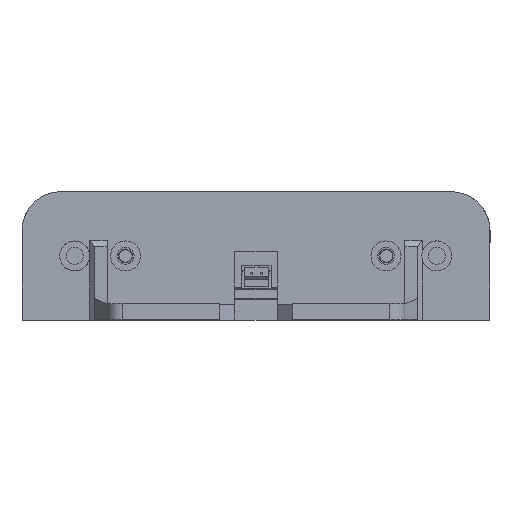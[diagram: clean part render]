
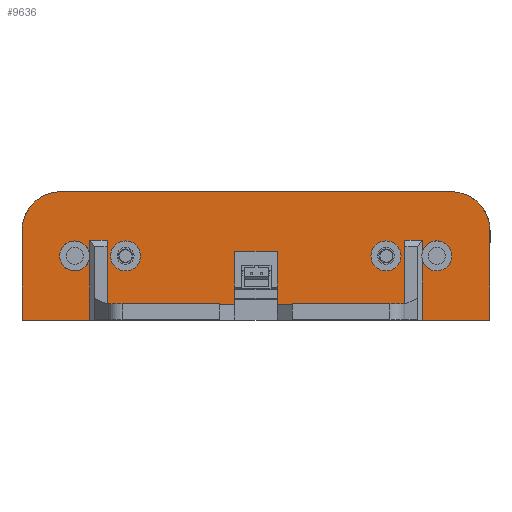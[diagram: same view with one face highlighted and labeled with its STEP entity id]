
A CAD part, top view. The second image highlights one B-rep face of the part: STEP entity #9636.
In plain terms, the highlighted planar face has unit normal (0, 0, 1).
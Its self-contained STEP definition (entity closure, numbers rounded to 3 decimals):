
#703=FACE_BOUND('',#4364,.T.);
#704=FACE_BOUND('',#4365,.T.);
#954=CIRCLE('',#10296,3.);
#955=CIRCLE('',#10297,7.79);
#956=CIRCLE('',#10298,7.79);
#957=CIRCLE('',#10299,3.);
#958=CIRCLE('',#10300,3.);
#959=CIRCLE('',#10301,3.);
#960=CIRCLE('',#10302,3.);
#1211=LINE('',#16126,#2320);
#1224=LINE('',#16153,#2333);
#1229=LINE('',#16173,#2338);
#1242=LINE('',#16208,#2351);
#1243=LINE('',#16212,#2352);
#1247=LINE('',#16222,#2356);
#1251=LINE('',#16230,#2360);
#1252=LINE('',#16233,#2361);
#1253=LINE('',#16236,#2362);
#1254=LINE('',#16238,#2363);
#1255=LINE('',#16242,#2364);
#1256=LINE('',#16246,#2365);
#1257=LINE('',#16248,#2366);
#1258=LINE('',#16250,#2367);
#1259=LINE('',#16256,#2368);
#1260=LINE('',#16258,#2369);
#1261=LINE('',#16259,#2370);
#1262=LINE('',#16260,#2371);
#2320=VECTOR('',#11278,10.);
#2333=VECTOR('',#11295,10.);
#2338=VECTOR('',#11312,10.);
#2351=VECTOR('',#11337,10.);
#2352=VECTOR('',#11340,10.);
#2356=VECTOR('',#11348,10.);
#2360=VECTOR('',#11352,10.);
#2361=VECTOR('',#11357,10.);
#2362=VECTOR('',#11360,10.);
#2363=VECTOR('',#11361,10.);
#2364=VECTOR('',#11364,10.);
#2365=VECTOR('',#11367,10.);
#2366=VECTOR('',#11368,10.);
#2367=VECTOR('',#11369,10.);
#2368=VECTOR('',#11374,10.);
#2369=VECTOR('',#11375,10.);
#2370=VECTOR('',#11376,10.);
#2371=VECTOR('',#11377,10.);
#3354=PLANE('',#10295);
#3819=FACE_OUTER_BOUND('',#4363,.T.);
#4363=EDGE_LOOP('',(#7739,#7740,#7741,#7742,#7743,#7744,#7745,#7746,#7747,
#7748,#7749,#7750,#7751,#7752,#7753,#7754,#7755,#7756,#7757,#7758,#7759,
#7760,#7761));
#4364=EDGE_LOOP('',(#7762));
#4365=EDGE_LOOP('',(#7763));
#5092=VERTEX_POINT('',#16121);
#5093=VERTEX_POINT('',#16125);
#5105=VERTEX_POINT('',#16151);
#5112=VERTEX_POINT('',#16166);
#5114=VERTEX_POINT('',#16172);
#5130=VERTEX_POINT('',#16206);
#5131=VERTEX_POINT('',#16210);
#5132=VERTEX_POINT('',#16211);
#5135=VERTEX_POINT('',#16219);
#5139=VERTEX_POINT('',#16227);
#5140=VERTEX_POINT('',#16229);
#5141=VERTEX_POINT('',#16235);
#5142=VERTEX_POINT('',#16237);
#5143=VERTEX_POINT('',#16239);
#5144=VERTEX_POINT('',#16241);
#5145=VERTEX_POINT('',#16243);
#5146=VERTEX_POINT('',#16245);
#5147=VERTEX_POINT('',#16247);
#5148=VERTEX_POINT('',#16249);
#5149=VERTEX_POINT('',#16251);
#5150=VERTEX_POINT('',#16253);
#5151=VERTEX_POINT('',#16255);
#5152=VERTEX_POINT('',#16257);
#5153=VERTEX_POINT('',#16261);
#5154=VERTEX_POINT('',#16263);
#6076=EDGE_CURVE('',#5093,#5092,#1211,.T.);
#6090=EDGE_CURVE('',#5105,#5092,#1224,.T.);
#6099=EDGE_CURVE('',#5112,#5114,#1229,.T.);
#6117=EDGE_CURVE('',#5112,#5130,#1242,.T.);
#6118=EDGE_CURVE('',#5131,#5132,#1243,.T.);
#6123=EDGE_CURVE('',#5135,#5131,#1247,.T.);
#6127=EDGE_CURVE('',#5139,#5140,#1251,.T.);
#6129=EDGE_CURVE('',#5105,#5132,#1252,.T.);
#6130=EDGE_CURVE('',#5135,#5140,#954,.T.);
#6131=EDGE_CURVE('',#5139,#5141,#1253,.T.);
#6132=EDGE_CURVE('',#5141,#5142,#1254,.T.);
#6133=EDGE_CURVE('',#5143,#5142,#955,.T.);
#6134=EDGE_CURVE('',#5144,#5143,#1255,.T.);
#6135=EDGE_CURVE('',#5145,#5144,#956,.T.);
#6136=EDGE_CURVE('',#5146,#5145,#1256,.T.);
#6137=EDGE_CURVE('',#5146,#5147,#1257,.T.);
#6138=EDGE_CURVE('',#5148,#5147,#1258,.T.);
#6139=EDGE_CURVE('',#5148,#5149,#957,.T.);
#6140=EDGE_CURVE('',#5149,#5150,#958,.T.);
#6141=EDGE_CURVE('',#5151,#5150,#1259,.T.);
#6142=EDGE_CURVE('',#5152,#5151,#1260,.T.);
#6143=EDGE_CURVE('',#5152,#5114,#1261,.T.);
#6144=EDGE_CURVE('',#5130,#5093,#1262,.T.);
#6145=EDGE_CURVE('',#5153,#5153,#959,.T.);
#6146=EDGE_CURVE('',#5154,#5154,#960,.T.);
#7739=ORIENTED_EDGE('',*,*,#6129,.T.);
#7740=ORIENTED_EDGE('',*,*,#6118,.F.);
#7741=ORIENTED_EDGE('',*,*,#6123,.F.);
#7742=ORIENTED_EDGE('',*,*,#6130,.T.);
#7743=ORIENTED_EDGE('',*,*,#6127,.F.);
#7744=ORIENTED_EDGE('',*,*,#6131,.T.);
#7745=ORIENTED_EDGE('',*,*,#6132,.T.);
#7746=ORIENTED_EDGE('',*,*,#6133,.F.);
#7747=ORIENTED_EDGE('',*,*,#6134,.F.);
#7748=ORIENTED_EDGE('',*,*,#6135,.F.);
#7749=ORIENTED_EDGE('',*,*,#6136,.F.);
#7750=ORIENTED_EDGE('',*,*,#6137,.T.);
#7751=ORIENTED_EDGE('',*,*,#6138,.F.);
#7752=ORIENTED_EDGE('',*,*,#6139,.T.);
#7753=ORIENTED_EDGE('',*,*,#6140,.T.);
#7754=ORIENTED_EDGE('',*,*,#6141,.F.);
#7755=ORIENTED_EDGE('',*,*,#6142,.F.);
#7756=ORIENTED_EDGE('',*,*,#6143,.T.);
#7757=ORIENTED_EDGE('',*,*,#6099,.F.);
#7758=ORIENTED_EDGE('',*,*,#6117,.T.);
#7759=ORIENTED_EDGE('',*,*,#6144,.T.);
#7760=ORIENTED_EDGE('',*,*,#6076,.T.);
#7761=ORIENTED_EDGE('',*,*,#6090,.F.);
#7762=ORIENTED_EDGE('',*,*,#6145,.T.);
#7763=ORIENTED_EDGE('',*,*,#6146,.T.);
#9636=ADVANCED_FACE('',(#3819,#703,#704),#3354,.T.);
#10295=AXIS2_PLACEMENT_3D('',#16232,#11355,#11356);
#10296=AXIS2_PLACEMENT_3D('',#16234,#11358,#11359);
#10297=AXIS2_PLACEMENT_3D('',#16240,#11362,#11363);
#10298=AXIS2_PLACEMENT_3D('',#16244,#11365,#11366);
#10299=AXIS2_PLACEMENT_3D('',#16252,#11370,#11371);
#10300=AXIS2_PLACEMENT_3D('',#16254,#11372,#11373);
#10301=AXIS2_PLACEMENT_3D('',#16262,#11378,#11379);
#10302=AXIS2_PLACEMENT_3D('',#16264,#11380,#11381);
#11278=DIRECTION('',(0.,-1.,0.));
#11295=DIRECTION('',(-1.,0.,0.));
#11312=DIRECTION('',(-1.,0.,0.));
#11337=DIRECTION('',(0.,1.,0.));
#11340=DIRECTION('',(-1.,0.,0.));
#11348=DIRECTION('',(0.,1.,0.));
#11352=DIRECTION('',(0.,1.,0.));
#11355=DIRECTION('center_axis',(0.,0.,1.));
#11356=DIRECTION('ref_axis',(1.,0.,0.));
#11357=DIRECTION('',(0.,1.,0.));
#11358=DIRECTION('center_axis',(0.,0.,-1.));
#11359=DIRECTION('ref_axis',(1.,0.,0.));
#11360=DIRECTION('',(1.,0.,0.));
#11361=DIRECTION('',(0.,1.,0.));
#11362=DIRECTION('center_axis',(0.,0.,-1.));
#11363=DIRECTION('ref_axis',(0.707,0.707,0.));
#11364=DIRECTION('',(1.,0.,0.));
#11365=DIRECTION('center_axis',(0.,0.,-1.));
#11366=DIRECTION('ref_axis',(-0.707,0.707,0.));
#11367=DIRECTION('',(0.,1.,0.));
#11368=DIRECTION('',(1.,0.,0.));
#11369=DIRECTION('',(0.,-1.,0.));
#11370=DIRECTION('center_axis',(0.,0.,-1.));
#11371=DIRECTION('ref_axis',(1.,0.,0.));
#11372=DIRECTION('center_axis',(0.,0.,-1.));
#11373=DIRECTION('ref_axis',(1.,0.,0.));
#11374=DIRECTION('',(0.,-1.,0.));
#11375=DIRECTION('',(-1.,0.,0.));
#11376=DIRECTION('',(0.,-1.,0.));
#11377=DIRECTION('',(1.,0.,0.));
#11378=DIRECTION('center_axis',(0.,0.,-1.));
#11379=DIRECTION('ref_axis',(1.,0.,0.));
#11380=DIRECTION('center_axis',(0.,0.,-1.));
#11381=DIRECTION('ref_axis',(1.,0.,0.));
#16121=CARTESIAN_POINT('',(4.2,3.175,-82.59));
#16125=CARTESIAN_POINT('',(4.2,13.75,-82.59));
#16126=CARTESIAN_POINT('',(4.2,3.075,-82.59));
#16151=CARTESIAN_POINT('',(29.75,3.175,-82.59));
#16153=CARTESIAN_POINT('',(-23.388,3.175,-82.59));
#16166=CARTESIAN_POINT('',(-4.2,3.175,-82.59));
#16172=CARTESIAN_POINT('',(-29.75,3.175,-82.59));
#16173=CARTESIAN_POINT('',(-23.388,3.175,-82.59));
#16206=CARTESIAN_POINT('',(-4.2,13.75,-82.59));
#16208=CARTESIAN_POINT('',(-4.2,0.,-82.59));
#16210=CARTESIAN_POINT('',(33.25,16.,-82.59));
#16211=CARTESIAN_POINT('',(29.75,16.,-82.59));
#16212=CARTESIAN_POINT('',(-8.513,16.,-82.59));
#16219=CARTESIAN_POINT('',(33.25,13.637,-82.59));
#16222=CARTESIAN_POINT('',(33.25,3.75,-82.59));
#16227=CARTESIAN_POINT('',(33.25,0.,-82.59));
#16229=CARTESIAN_POINT('',(33.25,12.063,-82.59));
#16230=CARTESIAN_POINT('',(33.25,3.75,-82.59));
#16232=CARTESIAN_POINT('Origin',(-46.775,0.,-82.59));
#16233=CARTESIAN_POINT('',(29.75,3.75,-82.59));
#16234=CARTESIAN_POINT('Origin',(36.145,12.85,-82.59));
#16235=CARTESIAN_POINT('',(46.775,0.,-82.59));
#16236=CARTESIAN_POINT('',(-46.775,0.,-82.59));
#16237=CARTESIAN_POINT('',(46.775,17.91,-82.59));
#16238=CARTESIAN_POINT('',(46.775,0.,-82.59));
#16239=CARTESIAN_POINT('',(38.985,25.7,-82.59));
#16240=CARTESIAN_POINT('Origin',(38.985,17.91,-82.59));
#16241=CARTESIAN_POINT('',(-38.985,25.7,-82.59));
#16242=CARTESIAN_POINT('',(-46.775,25.7,-82.59));
#16243=CARTESIAN_POINT('',(-46.775,17.91,-82.59));
#16244=CARTESIAN_POINT('Origin',(-38.985,17.91,-82.59));
#16245=CARTESIAN_POINT('',(-46.775,0.,-82.59));
#16246=CARTESIAN_POINT('',(-46.775,0.,-82.59));
#16247=CARTESIAN_POINT('',(-33.25,0.,-82.59));
#16248=CARTESIAN_POINT('',(-46.775,0.,-82.59));
#16249=CARTESIAN_POINT('',(-33.25,12.677,-82.59));
#16250=CARTESIAN_POINT('',(-33.25,3.75,-82.59));
#16251=CARTESIAN_POINT('',(-39.245,12.85,-82.59));
#16252=CARTESIAN_POINT('Origin',(-36.245,12.85,-82.59));
#16253=CARTESIAN_POINT('',(-33.25,13.023,-82.59));
#16254=CARTESIAN_POINT('Origin',(-36.245,12.85,-82.59));
#16255=CARTESIAN_POINT('',(-33.25,16.,-82.59));
#16256=CARTESIAN_POINT('',(-33.25,3.75,-82.59));
#16257=CARTESIAN_POINT('',(-29.75,16.,-82.59));
#16258=CARTESIAN_POINT('',(-38.263,16.,-82.59));
#16259=CARTESIAN_POINT('',(-29.75,3.75,-82.59));
#16260=CARTESIAN_POINT('',(-21.288,13.75,-82.59));
#16261=CARTESIAN_POINT('',(22.985,12.85,-82.59));
#16262=CARTESIAN_POINT('Origin',(25.985,12.85,-82.59));
#16263=CARTESIAN_POINT('',(-29.085,12.85,-82.59));
#16264=CARTESIAN_POINT('Origin',(-26.085,12.85,-82.59));
